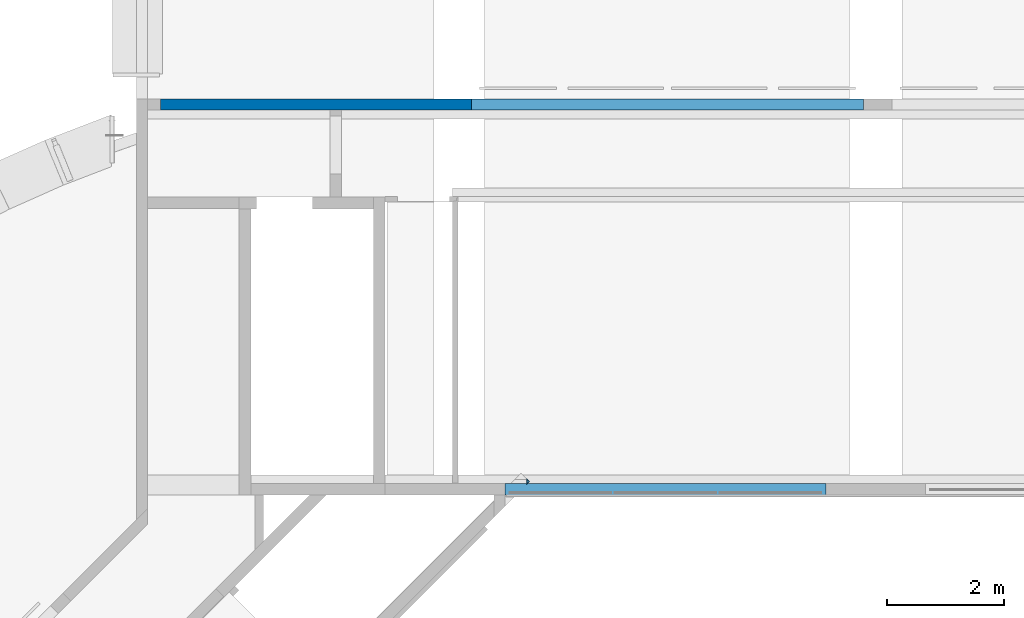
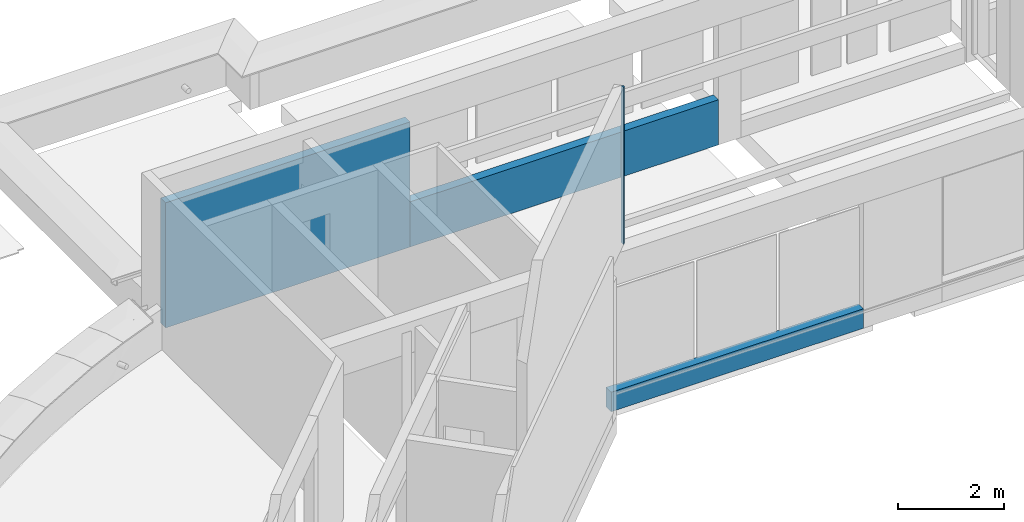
# One storey, part 15 of 38: 4 walls.
"""IFC4X3_ADD2 building model written with IfcOpenShell, lengths in millimetres."""

from ifc_helpers import new_model, si_unit, direction, frame, origin_with_axes, origin_2d_with_axis, place, context, subcontext, project, spatial, polyline, rectangle, outline, extrude, material, type_object, element, save


model = new_model("IFC4X3_ADD2")

# Units and contexts
model_context = context("Model", 3, precision=1e-05, world=origin_with_axes(), true_north=direction((0.0, 1.0)))
body_context = subcontext(model_context, "Body", "Model", "MODEL_VIEW")
ifc_project = project(units=[si_unit("LENGTHUNIT", "METRE", prefix="MILLI"), si_unit("AREAUNIT", "SQUARE_METRE"), si_unit("VOLUMEUNIT", "CUBIC_METRE"), si_unit("PLANEANGLEUNIT", "RADIAN"), si_unit("TIMEUNIT", "SECOND"), si_unit("MASSUNIT", "GRAM")], contexts=[model_context])

# Site, building, storey
site_placement = place(None, origin_with_axes())
site = spatial("IfcSite", under=ifc_project, at=site_placement, Name="Site", CompositionType="ELEMENT")
building_placement = place(site_placement, origin_with_axes())
building = spatial("IfcBuilding", under=site, at=building_placement, Name="IFC Building Story")
storey_placement = place(building_placement, frame((0.0, 0.0, 10800.0), z_axis=(0.0, 0.0, 1.0), x_axis=(1.0, 0.0, 0.0)))
storey = spatial("IfcBuildingStorey", under=building, at=storey_placement, Name="030", Elevation=10800.0)

# Walls
ifc_material = material(Name="BB_Beton_Bestaand")
wall_type_1 = type_object("IfcWallType", Name="BB_Beton_Bestaand 190", PredefinedType="NOTDEFINED", material=ifc_material)
wall_1_placement = place(storey_placement, origin_with_axes())
element("IfcWall", 1, at=wall_1_placement, inside=storey, type_object=wall_type_1, Name="Basic Wall:BB_XX_Wand uit beton, 190 mm", ObjectType="Basic Wall:BB_XX_Wand uit beton, 190 mm", PredefinedType="SOLIDWALL", context=body_context, shape_type="SweptSolid", body=[
    extrude(rectangle(XDim=6710.00000000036, YDim=189.9999999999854, at=origin_2d_with_axis()), frame((-21564.99999999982, 45285.0, -200.0), z_axis=(0.0, 0.0, 1.0), x_axis=(1.0, 0.0, 0.0)), (0.0, 0.0, 1.0), 1040.0),
])
wall_2_placement = place(storey_placement, origin_with_axes())
element("IfcWall", 2, at=wall_2_placement, inside=storey, type_object=wall_type_1, Name="Basic Wall:BB_XX_Wand uit beton, 190 mm", ObjectType="Basic Wall:BB_XX_Wand uit beton, 190 mm", PredefinedType="SOLIDWALL", context=body_context, shape_type="SweptSolid", body=[
    extrude(rectangle(XDim=5490.0, YDim=190.0, at=origin_2d_with_axis()), frame((-21600.0, 38699.9959341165, -200.0), z_axis=(0.0, 0.0, 1.0), x_axis=(1.0, 0.0, 0.0)), (0.0, 0.0, 1.0), 450.000000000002),
])
wall_3_placement = place(storey_placement, origin_with_axes())
element("IfcWall", 3, at=wall_3_placement, inside=storey, type_object=wall_type_1, Name="Basic Wall:BB_XX_Wand uit beton, 190 mm", ObjectType="Basic Wall:BB_XX_Wand uit beton, 190 mm", PredefinedType="SOLIDWALL", context=body_context, shape_type="SweptSolid", body=[
    extrude(rectangle(XDim=5324.999999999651, YDim=189.9999999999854, at=origin_2d_with_axis()), frame((-27582.50000000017, 45285.0, -200.0), z_axis=(0.0, 0.0, 1.0), x_axis=(1.0, 0.0, 0.0)), (0.0, 0.0, 1.0), 2879.99999999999),
])
wall_type_2 = type_object("IfcWallType", Name="BB_Beton_Bestaand 0", PredefinedType="NOTDEFINED", material=ifc_material)
wall_4_placement = place(storey_placement, origin_with_axes())
element("IfcWall", 4, at=wall_4_placement, inside=storey, type_object=wall_type_2, Name="Basic Wall:BB_XX_Wand uit beton, 200 mm", ObjectType="Basic Wall:BB_XX_Wand uit beton, 200 mm", PredefinedType="SOLIDWALL", context=body_context, shape_type="SweptSolid", body=[
    extrude(outline(polyline([(-14.89048063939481, 44.67144191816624), (29.7809612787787, -7.275957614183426e-12), (-14.8904806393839, -44.67144191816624), (-14.89048063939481, 44.67144191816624)])), frame((-23958.25933574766, 38831.82466356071, 3400.0), z_axis=(0.0, 0.0, 1.0), x_axis=(1.0, 0.0, 0.0)), (0.0, 0.0, 1.0), 3620.0013275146),
])

save(model, "model.ifc")
